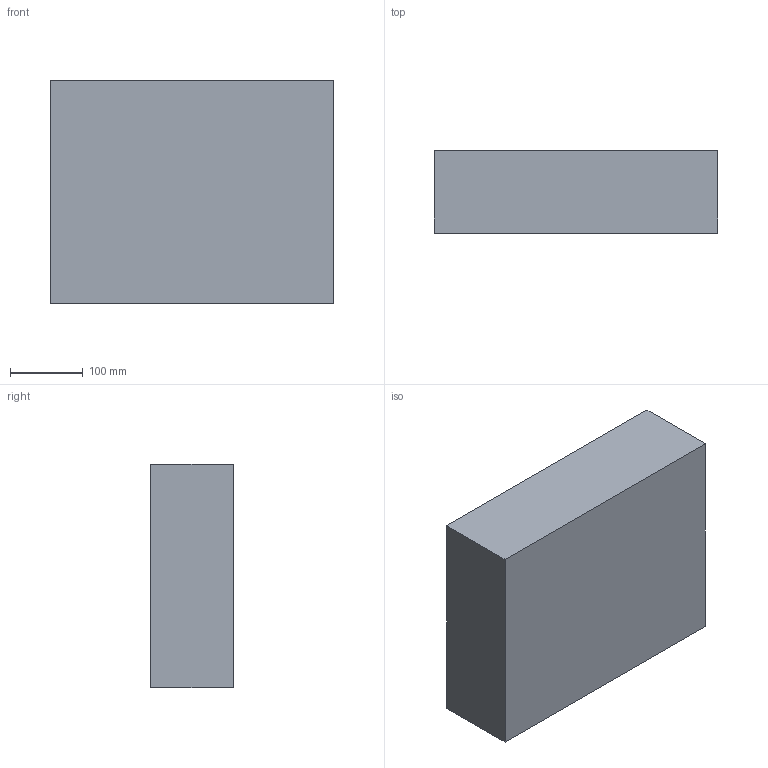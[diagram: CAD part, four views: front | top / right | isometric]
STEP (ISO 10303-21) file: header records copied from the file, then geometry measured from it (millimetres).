
FILE_DESCRIPTION (( 'STEP AP203' ), '1' );
FILE_NAME ('NANUK_915 Bottom.STEP', '2012-01-23T22:15:05', ( 'Ben laptop' ), ( 'Microsoft' ), 'SwSTEP 2.0', 'SolidWorks 2011', '' );
FILE_SCHEMA (( 'CONFIG_CONTROL_DESIGN' ));
Length unit declared in the file: inch
Products named in the file (1): NANUK_915 Bottom
Bounding box: 390.4 x 113.79 x 308.08 mm (x, y, z)
Volume: 5255220.7 mm3; surface area: 508854.3 mm2
Topology: 1 solids, 1 shells, 457 faces, 1101 edges, 648 vertices
Faces by surface type: bspline 226, cylinder 144, plane 59, torus 20, cone 4, sphere 4
Entity records: 30004 total; most frequent: CARTESIAN_POINT 21099, ORIENTED_EDGE 2162, DIRECTION 1448, EDGE_CURVE 1081, VERTEX_POINT 644, AXIS2_PLACEMENT_3D 609, EDGE_LOOP 475, FACE_OUTER_BOUND 457
